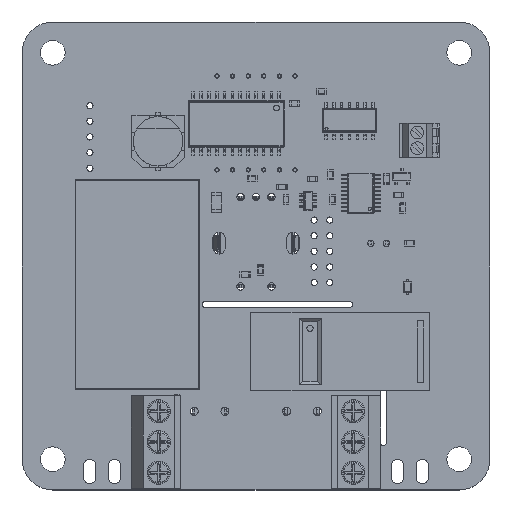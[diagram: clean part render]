
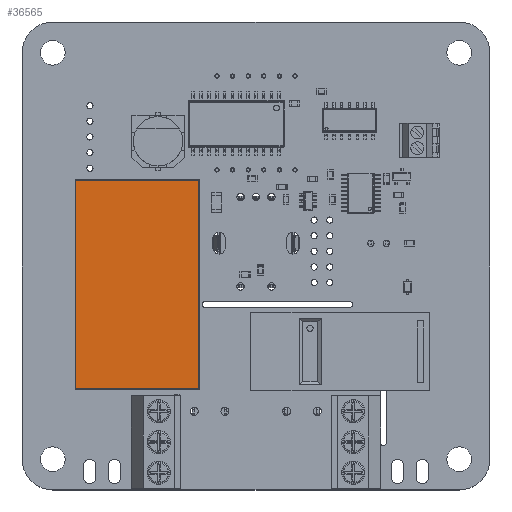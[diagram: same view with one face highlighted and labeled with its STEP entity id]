
A CAD part, top view. The second image highlights one B-rep face of the part: STEP entity #36565.
In plain terms, the highlighted planar face has unit normal (0, 0, 1).
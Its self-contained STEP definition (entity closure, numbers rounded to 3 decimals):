
#35864 = CYLINDRICAL_SURFACE('',#35865,0.1);
#35865 = AXIS2_PLACEMENT_3D('',#35866,#35867,#35868);
#35866 = CARTESIAN_POINT('',(0.1,0.,14.9));
#35867 = DIRECTION('',(0.,1.,0.));
#35868 = DIRECTION('',(-1.,0.,0.));
#36047 = VERTEX_POINT('',#36048);
#36048 = CARTESIAN_POINT('',(0.1,0.1,15.));
#36068 = EDGE_CURVE('',#36047,#36069,#36071,.T.);
#36069 = VERTEX_POINT('',#36070);
#36070 = CARTESIAN_POINT('',(0.1,20.1,15.));
#36071 = SURFACE_CURVE('',#36072,(#36076,#36083),.PCURVE_S1.);
#36072 = LINE('',#36073,#36074);
#36073 = CARTESIAN_POINT('',(0.1,0.,15.));
#36074 = VECTOR('',#36075,1.);
#36075 = DIRECTION('',(0.,1.,0.));
#36076 = PCURVE('',#35864,#36077);
#36077 = DEFINITIONAL_REPRESENTATION('',(#36078),#36082);
#36078 = LINE('',#36079,#36080);
#36079 = CARTESIAN_POINT('',(1.571,0.));
#36080 = VECTOR('',#36081,1.);
#36081 = DIRECTION('',(0.,1.));
#36082 = ( GEOMETRIC_REPRESENTATION_CONTEXT(2) 
PARAMETRIC_REPRESENTATION_CONTEXT() REPRESENTATION_CONTEXT('2D SPACE',''
  ) );
#36083 = PCURVE('',#36084,#36089);
#36084 = PLANE('',#36085);
#36085 = AXIS2_PLACEMENT_3D('',#36086,#36087,#36088);
#36086 = CARTESIAN_POINT('',(0.,0.,15.));
#36087 = DIRECTION('',(0.,0.,1.));
#36088 = DIRECTION('',(1.,0.,0.));
#36089 = DEFINITIONAL_REPRESENTATION('',(#36090),#36094);
#36090 = LINE('',#36091,#36092);
#36091 = CARTESIAN_POINT('',(0.1,0.));
#36092 = VECTOR('',#36093,1.);
#36093 = DIRECTION('',(0.,1.));
#36094 = ( GEOMETRIC_REPRESENTATION_CONTEXT(2) 
PARAMETRIC_REPRESENTATION_CONTEXT() REPRESENTATION_CONTEXT('2D SPACE',''
  ) );
#36248 = CYLINDRICAL_SURFACE('',#36249,0.1);
#36249 = AXIS2_PLACEMENT_3D('',#36250,#36251,#36252);
#36250 = CARTESIAN_POINT('',(0.,0.1,14.9));
#36251 = DIRECTION('',(1.,0.,0.));
#36252 = DIRECTION('',(0.,-1.,0.));
#36565 = ADVANCED_FACE('',(#36566),#36084,.T.);
#36566 = FACE_BOUND('',#36567,.T.);
#36567 = EDGE_LOOP('',(#36568,#36569,#36592,#36620));
#36568 = ORIENTED_EDGE('',*,*,#36068,.F.);
#36569 = ORIENTED_EDGE('',*,*,#36570,.T.);
#36570 = EDGE_CURVE('',#36047,#36571,#36573,.T.);
#36571 = VERTEX_POINT('',#36572);
#36572 = CARTESIAN_POINT('',(33.9,0.1,15.));
#36573 = SURFACE_CURVE('',#36574,(#36578,#36585),.PCURVE_S1.);
#36574 = LINE('',#36575,#36576);
#36575 = CARTESIAN_POINT('',(0.,0.1,15.));
#36576 = VECTOR('',#36577,1.);
#36577 = DIRECTION('',(1.,0.,0.));
#36578 = PCURVE('',#36084,#36579);
#36579 = DEFINITIONAL_REPRESENTATION('',(#36580),#36584);
#36580 = LINE('',#36581,#36582);
#36581 = CARTESIAN_POINT('',(0.,0.1));
#36582 = VECTOR('',#36583,1.);
#36583 = DIRECTION('',(1.,0.));
#36584 = ( GEOMETRIC_REPRESENTATION_CONTEXT(2) 
PARAMETRIC_REPRESENTATION_CONTEXT() REPRESENTATION_CONTEXT('2D SPACE',''
  ) );
#36585 = PCURVE('',#36248,#36586);
#36586 = DEFINITIONAL_REPRESENTATION('',(#36587),#36591);
#36587 = LINE('',#36588,#36589);
#36588 = CARTESIAN_POINT('',(4.712,0.));
#36589 = VECTOR('',#36590,1.);
#36590 = DIRECTION('',(0.,1.));
#36591 = ( GEOMETRIC_REPRESENTATION_CONTEXT(2) 
PARAMETRIC_REPRESENTATION_CONTEXT() REPRESENTATION_CONTEXT('2D SPACE',''
  ) );
#36592 = ORIENTED_EDGE('',*,*,#36593,.T.);
#36593 = EDGE_CURVE('',#36571,#36594,#36596,.T.);
#36594 = VERTEX_POINT('',#36595);
#36595 = CARTESIAN_POINT('',(33.9,20.1,15.));
#36596 = SURFACE_CURVE('',#36597,(#36601,#36608),.PCURVE_S1.);
#36597 = LINE('',#36598,#36599);
#36598 = CARTESIAN_POINT('',(33.9,0.,15.));
#36599 = VECTOR('',#36600,1.);
#36600 = DIRECTION('',(0.,1.,0.));
#36601 = PCURVE('',#36084,#36602);
#36602 = DEFINITIONAL_REPRESENTATION('',(#36603),#36607);
#36603 = LINE('',#36604,#36605);
#36604 = CARTESIAN_POINT('',(33.9,0.));
#36605 = VECTOR('',#36606,1.);
#36606 = DIRECTION('',(0.,1.));
#36607 = ( GEOMETRIC_REPRESENTATION_CONTEXT(2) 
PARAMETRIC_REPRESENTATION_CONTEXT() REPRESENTATION_CONTEXT('2D SPACE',''
  ) );
#36608 = PCURVE('',#36609,#36614);
#36609 = CYLINDRICAL_SURFACE('',#36610,0.1);
#36610 = AXIS2_PLACEMENT_3D('',#36611,#36612,#36613);
#36611 = CARTESIAN_POINT('',(33.9,0.,14.9));
#36612 = DIRECTION('',(0.,1.,0.));
#36613 = DIRECTION('',(1.,0.,0.));
#36614 = DEFINITIONAL_REPRESENTATION('',(#36615),#36619);
#36615 = LINE('',#36616,#36617);
#36616 = CARTESIAN_POINT('',(4.712,0.));
#36617 = VECTOR('',#36618,1.);
#36618 = DIRECTION('',(0.,1.));
#36619 = ( GEOMETRIC_REPRESENTATION_CONTEXT(2) 
PARAMETRIC_REPRESENTATION_CONTEXT() REPRESENTATION_CONTEXT('2D SPACE',''
  ) );
#36620 = ORIENTED_EDGE('',*,*,#36621,.F.);
#36621 = EDGE_CURVE('',#36069,#36594,#36622,.T.);
#36622 = SURFACE_CURVE('',#36623,(#36627,#36634),.PCURVE_S1.);
#36623 = LINE('',#36624,#36625);
#36624 = CARTESIAN_POINT('',(0.,20.1,15.));
#36625 = VECTOR('',#36626,1.);
#36626 = DIRECTION('',(1.,0.,0.));
#36627 = PCURVE('',#36084,#36628);
#36628 = DEFINITIONAL_REPRESENTATION('',(#36629),#36633);
#36629 = LINE('',#36630,#36631);
#36630 = CARTESIAN_POINT('',(0.,20.1));
#36631 = VECTOR('',#36632,1.);
#36632 = DIRECTION('',(1.,0.));
#36633 = ( GEOMETRIC_REPRESENTATION_CONTEXT(2) 
PARAMETRIC_REPRESENTATION_CONTEXT() REPRESENTATION_CONTEXT('2D SPACE',''
  ) );
#36634 = PCURVE('',#36635,#36640);
#36635 = CYLINDRICAL_SURFACE('',#36636,0.1);
#36636 = AXIS2_PLACEMENT_3D('',#36637,#36638,#36639);
#36637 = CARTESIAN_POINT('',(0.,20.1,14.9));
#36638 = DIRECTION('',(1.,0.,0.));
#36639 = DIRECTION('',(0.,1.,0.));
#36640 = DEFINITIONAL_REPRESENTATION('',(#36641),#36645);
#36641 = LINE('',#36642,#36643);
#36642 = CARTESIAN_POINT('',(1.571,0.));
#36643 = VECTOR('',#36644,1.);
#36644 = DIRECTION('',(0.,1.));
#36645 = ( GEOMETRIC_REPRESENTATION_CONTEXT(2) 
PARAMETRIC_REPRESENTATION_CONTEXT() REPRESENTATION_CONTEXT('2D SPACE',''
  ) );
